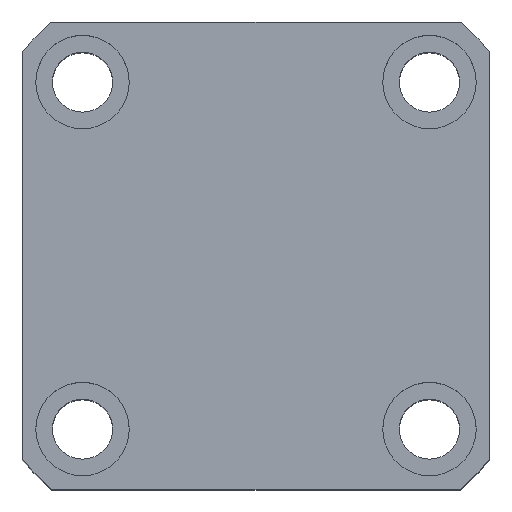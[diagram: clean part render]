
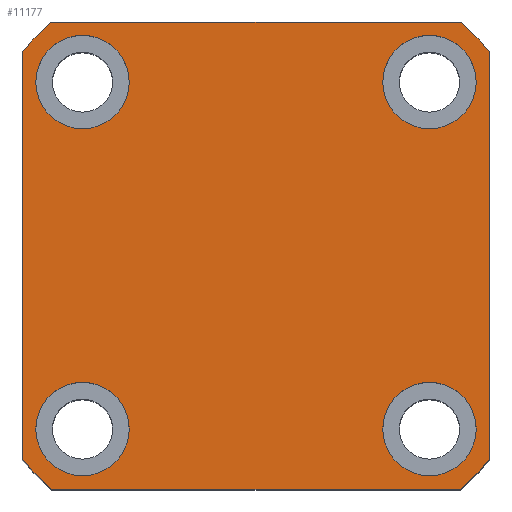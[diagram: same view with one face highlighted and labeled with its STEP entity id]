
A CAD part, top view. The second image highlights one B-rep face of the part: STEP entity #11177.
In plain terms, the highlighted planar face has unit normal (0, 0, 1).
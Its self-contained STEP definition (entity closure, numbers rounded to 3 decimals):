
#143 = DIRECTION ( 'NONE',  ( 0., 0., 1. ) ) ;
#149 = ORIENTED_EDGE ( 'NONE', *, *, #4111, .T. ) ;
#200 = CARTESIAN_POINT ( 'NONE',  ( -35., 35., 80. ) ) ;
#318 = FACE_BOUND ( 'NONE', #9351, .T. ) ;
#631 = FACE_BOUND ( 'NONE', #2677, .T. ) ;
#692 = EDGE_CURVE ( 'NONE', #10987, #2149, #10485, .T. ) ;
#888 = EDGE_CURVE ( 'NONE', #8003, #11558, #9799, .T. ) ;
#912 = AXIS2_PLACEMENT_3D ( 'NONE', #6412, #143, #7453 ) ;
#1134 = DIRECTION ( 'NONE',  ( 0., 0., 1. ) ) ;
#1189 = AXIS2_PLACEMENT_3D ( 'NONE', #5517, #5707, #6456 ) ;
#1285 = DIRECTION ( 'NONE',  ( 1., 0., 0. ) ) ;
#1608 = AXIS2_PLACEMENT_3D ( 'NONE', #10761, #4492, #11800 ) ;
#1726 = AXIS2_PLACEMENT_3D ( 'NONE', #8273, #2004, #9324 ) ;
#1749 = DIRECTION ( 'NONE',  ( 0., 0., 1. ) ) ;
#1873 = CARTESIAN_POINT ( 'NONE',  ( 35., 30.615, 80. ) ) ;
#2004 = DIRECTION ( 'NONE',  ( 0., 0., 1. ) ) ;
#2052 = CARTESIAN_POINT ( 'NONE',  ( 35., 35., 80. ) ) ;
#2073 = AXIS2_PLACEMENT_3D ( 'NONE', #7405, #1134, #8460 ) ;
#2149 = VERTEX_POINT ( 'NONE', #13386 ) ;
#2187 = EDGE_CURVE ( 'NONE', #3439, #9633, #9803, .T. ) ;
#2214 = CIRCLE ( 'NONE', #11955, 7. ) ;
#2580 = AXIS2_PLACEMENT_3D ( 'NONE', #5944, #13256, #6994 ) ;
#2677 = EDGE_LOOP ( 'NONE', ( #3887, #6098 ) ) ;
#2705 = CARTESIAN_POINT ( 'NONE',  ( -35., 30.615, 80. ) ) ;
#2751 = CARTESIAN_POINT ( 'NONE',  ( 26., 26., 80. ) ) ;
#2844 = VERTEX_POINT ( 'NONE', #1873 ) ;
#2864 = CIRCLE ( 'NONE', #912, 7. ) ;
#2937 = DIRECTION ( 'NONE',  ( 0., 0., 1. ) ) ;
#2973 = CIRCLE ( 'NONE', #10102, 7. ) ;
#3135 = CARTESIAN_POINT ( 'NONE',  ( 26., -26., 80. ) ) ;
#3237 = CARTESIAN_POINT ( 'NONE',  ( -30.615, -35., 80. ) ) ;
#3439 = VERTEX_POINT ( 'NONE', #8331 ) ;
#3812 = DIRECTION ( 'NONE',  ( 1., 0., 0. ) ) ;
#3861 = CARTESIAN_POINT ( 'NONE',  ( 26., -26., 80. ) ) ;
#3887 = ORIENTED_EDGE ( 'NONE', *, *, #888, .F. ) ;
#3899 = CARTESIAN_POINT ( 'NONE',  ( -19., 26., 80. ) ) ;
#4111 = EDGE_CURVE ( 'NONE', #9633, #8172, #8963, .T. ) ;
#4165 = DIRECTION ( 'NONE',  ( 0., 1., 0. ) ) ;
#4185 = DIRECTION ( 'NONE',  ( 1., 0., 0. ) ) ;
#4229 = DIRECTION ( 'NONE',  ( 0., 0., 1. ) ) ;
#4492 = DIRECTION ( 'NONE',  ( 0., 0., 1. ) ) ;
#4562 = EDGE_LOOP ( 'NONE', ( #13520, #6833, #9081, #10393, #149, #9170, #13076, #13249 ) ) ;
#4608 = VERTEX_POINT ( 'NONE', #5115 ) ;
#4893 = DIRECTION ( 'NONE',  ( 1., 0., 0. ) ) ;
#5115 = CARTESIAN_POINT ( 'NONE',  ( -33., -26., 80. ) ) ;
#5244 = CIRCLE ( 'NONE', #9836, 7. ) ;
#5402 = CARTESIAN_POINT ( 'NONE',  ( -35., 35., 80. ) ) ;
#5462 = LINE ( 'NONE', #5402, #10720 ) ;
#5517 = CARTESIAN_POINT ( 'NONE',  ( 0., 0., 80. ) ) ;
#5544 = FACE_OUTER_BOUND ( 'NONE', #4562, .T. ) ;
#5548 = VERTEX_POINT ( 'NONE', #3899 ) ;
#5570 = DIRECTION ( 'NONE',  ( 0., 0., 1. ) ) ;
#5707 = DIRECTION ( 'NONE',  ( 0., 0., 1. ) ) ;
#5864 = EDGE_CURVE ( 'NONE', #8013, #4608, #2973, .T. ) ;
#5878 = FACE_BOUND ( 'NONE', #6869, .T. ) ;
#5944 = CARTESIAN_POINT ( 'NONE',  ( 0., 0., 80. ) ) ;
#6071 = CIRCLE ( 'NONE', #2580, 46.5 ) ;
#6098 = ORIENTED_EDGE ( 'NONE', *, *, #7522, .F. ) ;
#6131 = CIRCLE ( 'NONE', #7326, 7. ) ;
#6230 = CARTESIAN_POINT ( 'NONE',  ( -33., 26., 80. ) ) ;
#6412 = CARTESIAN_POINT ( 'NONE',  ( -26., 26., 80. ) ) ;
#6456 = DIRECTION ( 'NONE',  ( 1., 0., 0. ) ) ;
#6463 = DIRECTION ( 'NONE',  ( 0., -1., 0. ) ) ;
#6471 = DIRECTION ( 'NONE',  ( -1., 0., 0. ) ) ;
#6487 = EDGE_CURVE ( 'NONE', #5548, #8097, #5244, .T. ) ;
#6523 = VECTOR ( 'NONE', #6463, 1000. ) ;
#6628 = CIRCLE ( 'NONE', #2073, 46.5 ) ;
#6826 = EDGE_CURVE ( 'NONE', #8097, #5548, #2864, .T. ) ;
#6833 = ORIENTED_EDGE ( 'NONE', *, *, #10443, .T. ) ;
#6869 = EDGE_LOOP ( 'NONE', ( #11133, #8571 ) ) ;
#6946 = LINE ( 'NONE', #2052, #12176 ) ;
#6994 = DIRECTION ( 'NONE',  ( 1., 0., 0. ) ) ;
#7028 = ORIENTED_EDGE ( 'NONE', *, *, #5864, .F. ) ;
#7181 = VECTOR ( 'NONE', #1285, 1000. ) ;
#7326 = AXIS2_PLACEMENT_3D ( 'NONE', #3135, #10459, #4185 ) ;
#7405 = CARTESIAN_POINT ( 'NONE',  ( 0., 0., 80. ) ) ;
#7431 = ORIENTED_EDGE ( 'NONE', *, *, #6826, .F. ) ;
#7453 = DIRECTION ( 'NONE',  ( 1., 0., 0. ) ) ;
#7522 = EDGE_CURVE ( 'NONE', #11558, #8003, #2214, .T. ) ;
#7788 = CARTESIAN_POINT ( 'NONE',  ( 0., 0., 80. ) ) ;
#7807 = VERTEX_POINT ( 'NONE', #12626 ) ;
#7954 = EDGE_CURVE ( 'NONE', #4608, #8013, #8917, .T. ) ;
#8003 = VERTEX_POINT ( 'NONE', #9672 ) ;
#8013 = VERTEX_POINT ( 'NONE', #11247 ) ;
#8097 = VERTEX_POINT ( 'NONE', #6230 ) ;
#8134 = EDGE_CURVE ( 'NONE', #2149, #2844, #6946, .T. ) ;
#8172 = VERTEX_POINT ( 'NONE', #9430 ) ;
#8243 = EDGE_CURVE ( 'NONE', #8172, #8256, #6628, .T. ) ;
#8256 = VERTEX_POINT ( 'NONE', #3237 ) ;
#8267 = CARTESIAN_POINT ( 'NONE',  ( 33., -26., 80. ) ) ;
#8273 = CARTESIAN_POINT ( 'NONE',  ( 0., 0., 80. ) ) ;
#8331 = CARTESIAN_POINT ( 'NONE',  ( -30.615, 35., 80. ) ) ;
#8350 = FACE_BOUND ( 'NONE', #12202, .T. ) ;
#8460 = DIRECTION ( 'NONE',  ( 1., 0., 0. ) ) ;
#8571 = ORIENTED_EDGE ( 'NONE', *, *, #9657, .F. ) ;
#8615 = CARTESIAN_POINT ( 'NONE',  ( -35., -35., 80. ) ) ;
#8717 = CARTESIAN_POINT ( 'NONE',  ( 30.615, -35., 80. ) ) ;
#8917 = CIRCLE ( 'NONE', #1608, 7. ) ;
#8943 = AXIS2_PLACEMENT_3D ( 'NONE', #7788, #1749, #9073 ) ;
#8963 = LINE ( 'NONE', #200, #6523 ) ;
#8972 = EDGE_CURVE ( 'NONE', #9342, #3439, #5462, .T. ) ;
#9073 = DIRECTION ( 'NONE',  ( 1., 0., 0. ) ) ;
#9081 = ORIENTED_EDGE ( 'NONE', *, *, #8972, .T. ) ;
#9170 = ORIENTED_EDGE ( 'NONE', *, *, #8243, .T. ) ;
#9204 = CARTESIAN_POINT ( 'NONE',  ( -26., 26., 80. ) ) ;
#9324 = DIRECTION ( 'NONE',  ( 1., 0., 0. ) ) ;
#9342 = VERTEX_POINT ( 'NONE', #9592 ) ;
#9351 = EDGE_LOOP ( 'NONE', ( #7028, #13420 ) ) ;
#9430 = CARTESIAN_POINT ( 'NONE',  ( -35., -30.615, 80. ) ) ;
#9592 = CARTESIAN_POINT ( 'NONE',  ( 30.615, 35., 80. ) ) ;
#9633 = VERTEX_POINT ( 'NONE', #2705 ) ;
#9657 = EDGE_CURVE ( 'NONE', #7807, #13012, #11191, .T. ) ;
#9672 = CARTESIAN_POINT ( 'NONE',  ( 33., 26., 80. ) ) ;
#9799 = CIRCLE ( 'NONE', #10997, 7. ) ;
#9803 = CIRCLE ( 'NONE', #1726, 46.5 ) ;
#9811 = EDGE_CURVE ( 'NONE', #13012, #7807, #6131, .T. ) ;
#9836 = AXIS2_PLACEMENT_3D ( 'NONE', #9204, #2937, #10261 ) ;
#9938 = PLANE ( 'NONE',  #8943 ) ;
#10077 = DIRECTION ( 'NONE',  ( 0., 0., 1. ) ) ;
#10102 = AXIS2_PLACEMENT_3D ( 'NONE', #11835, #5570, #12890 ) ;
#10261 = DIRECTION ( 'NONE',  ( 1., 0., 0. ) ) ;
#10393 = ORIENTED_EDGE ( 'NONE', *, *, #2187, .T. ) ;
#10443 = EDGE_CURVE ( 'NONE', #2844, #9342, #6071, .T. ) ;
#10459 = DIRECTION ( 'NONE',  ( 0., 0., 1. ) ) ;
#10485 = CIRCLE ( 'NONE', #1189, 46.5 ) ;
#10492 = ORIENTED_EDGE ( 'NONE', *, *, #6487, .F. ) ;
#10510 = CARTESIAN_POINT ( 'NONE',  ( 26., 26., 80. ) ) ;
#10720 = VECTOR ( 'NONE', #6471, 1000. ) ;
#10761 = CARTESIAN_POINT ( 'NONE',  ( -26., -26., 80. ) ) ;
#10987 = VERTEX_POINT ( 'NONE', #8717 ) ;
#10997 = AXIS2_PLACEMENT_3D ( 'NONE', #10510, #4229, #11538 ) ;
#11133 = ORIENTED_EDGE ( 'NONE', *, *, #9811, .F. ) ;
#11171 = DIRECTION ( 'NONE',  ( 0., 0., 1. ) ) ;
#11177 = ADVANCED_FACE ( 'NONE', ( #318, #5878, #631, #8350, #5544 ), #9938, .T. ) ;
#11191 = CIRCLE ( 'NONE', #12808, 7. ) ;
#11247 = CARTESIAN_POINT ( 'NONE',  ( -19., -26., 80. ) ) ;
#11538 = DIRECTION ( 'NONE',  ( 1., 0., 0. ) ) ;
#11558 = VERTEX_POINT ( 'NONE', #12211 ) ;
#11800 = DIRECTION ( 'NONE',  ( 1., 0., 0. ) ) ;
#11835 = CARTESIAN_POINT ( 'NONE',  ( -26., -26., 80. ) ) ;
#11897 = EDGE_CURVE ( 'NONE', #8256, #10987, #12743, .T. ) ;
#11955 = AXIS2_PLACEMENT_3D ( 'NONE', #2751, #10077, #3812 ) ;
#12176 = VECTOR ( 'NONE', #4165, 1000. ) ;
#12202 = EDGE_LOOP ( 'NONE', ( #10492, #7431 ) ) ;
#12211 = CARTESIAN_POINT ( 'NONE',  ( 19., 26., 80. ) ) ;
#12626 = CARTESIAN_POINT ( 'NONE',  ( 19., -26., 80. ) ) ;
#12743 = LINE ( 'NONE', #8615, #7181 ) ;
#12808 = AXIS2_PLACEMENT_3D ( 'NONE', #3861, #11171, #4893 ) ;
#12890 = DIRECTION ( 'NONE',  ( 1., 0., 0. ) ) ;
#13012 = VERTEX_POINT ( 'NONE', #8267 ) ;
#13076 = ORIENTED_EDGE ( 'NONE', *, *, #11897, .T. ) ;
#13249 = ORIENTED_EDGE ( 'NONE', *, *, #692, .T. ) ;
#13256 = DIRECTION ( 'NONE',  ( 0., 0., 1. ) ) ;
#13386 = CARTESIAN_POINT ( 'NONE',  ( 35., -30.615, 80. ) ) ;
#13420 = ORIENTED_EDGE ( 'NONE', *, *, #7954, .F. ) ;
#13520 = ORIENTED_EDGE ( 'NONE', *, *, #8134, .T. ) ;
